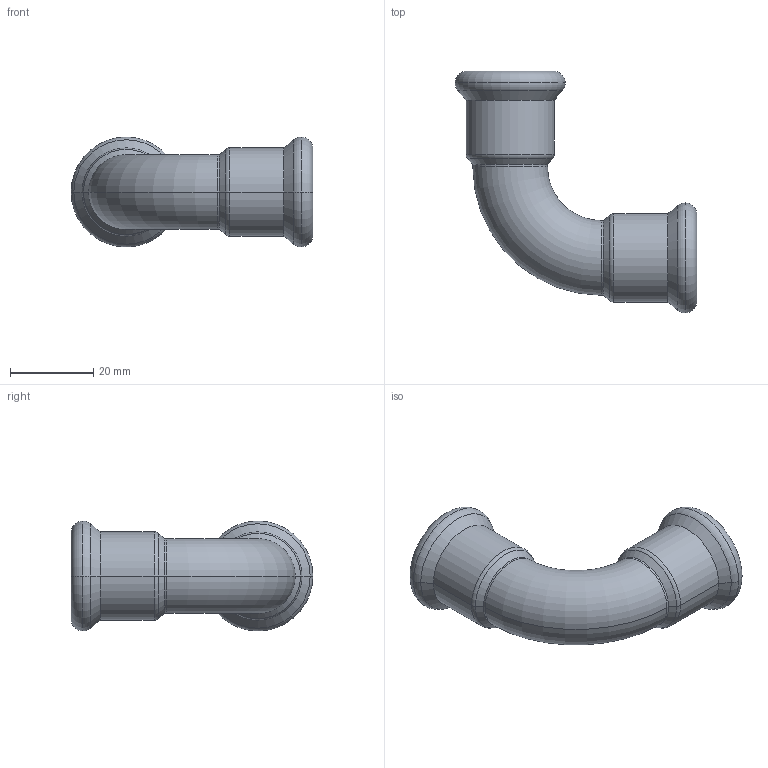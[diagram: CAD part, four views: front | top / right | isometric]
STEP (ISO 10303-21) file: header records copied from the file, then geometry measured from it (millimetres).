
FILE_DESCRIPTION(('CoCreate Modeling STEP Export'),'2;1');
FILE_NAME('C1408 18x18.stp','2014-11-07T16:42:59',(''),(''),'CoCreate Modeling STEP processor for AP214 (Solid Model)','CoCreate Modeling 17.00A 17-Jun-2010 (C) Parametric Technology GmbH','');
FILE_SCHEMA(('AUTOMOTIVE_DESIGN { 1 0 10303 214 1 1 1 1 }'));
Length unit declared in the file: millimetre
Products named in the file (2): C1408_18x18
Assembly tree (1 placements, depth 2):
  C1408_18x18
    C1408_18x18
Bounding box: 58.25 x 58.25 x 26.5 mm (x, y, z)
Volume: 8409.3 mm3; surface area: 10274.3 mm2
Topology: 1 solids, 1 shells, 50 faces, 104 edges, 60 vertices
Faces by surface type: cylinder 20, torus 16, cone 8, plane 6
Entity records: 1119 total; most frequent: ORIENTED_EDGE 208, DIRECTION 176, CARTESIAN_POINT 162, EDGE_CURVE 104, AXIS2_PLACEMENT_3D 74, VERTEX_POINT 60, EDGE_LOOP 56, FACE_OUTER_BOUND 50
